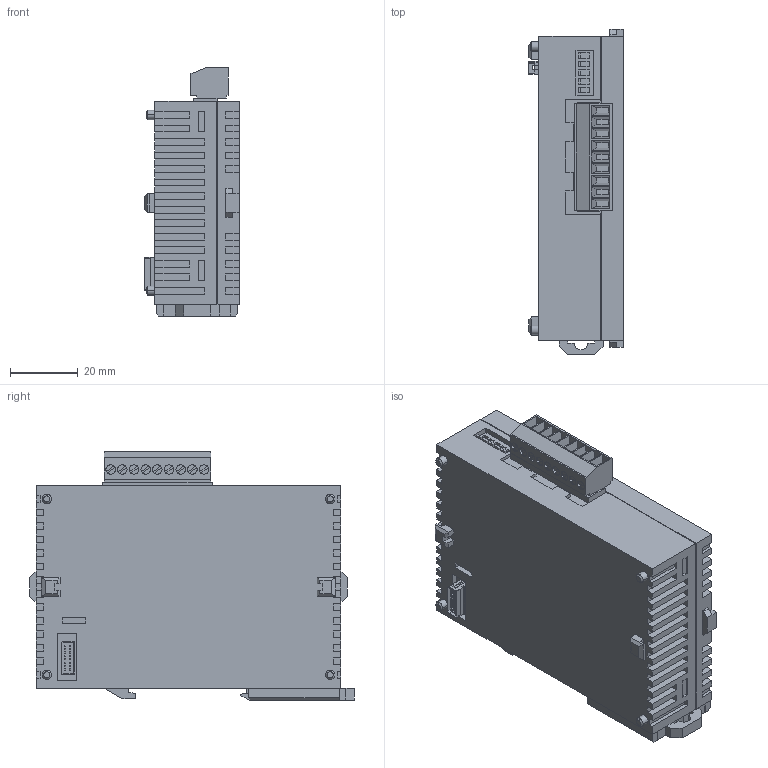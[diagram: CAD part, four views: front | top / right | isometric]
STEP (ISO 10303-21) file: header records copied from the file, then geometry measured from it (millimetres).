
FILE_DESCRIPTION (( 'STEP AP214' ), '1' );
FILE_NAME ('afp0420.stp', '2008-08-28T04:35:40', ( '' ), ( 'PanasonicElectricWorks' ), '', '', '' );
FILE_SCHEMA (( 'AUTOMOTIVE_DESIGN' ));
Length unit declared in the file: millimetre
Products named in the file (1): afp0420
Bounding box: 28 x 96.05 x 73.45 mm (x, y, z)
Volume: 137184.5 mm3; surface area: 24413.3 mm2
Topology: 1 solids, 1 shells, 775 faces, 2095 edges, 1378 vertices
Faces by surface type: plane 700, cylinder 51, bspline 16, cone 8
Entity records: 32655 total; most frequent: CARTESIAN_POINT 4489, ORIENTED_EDGE 4190, DIRECTION 3769, EDGE_CURVE 2095, LINE 1941, VECTOR 1941, VERTEX_POINT 1378, AXIS2_PLACEMENT_3D 914
